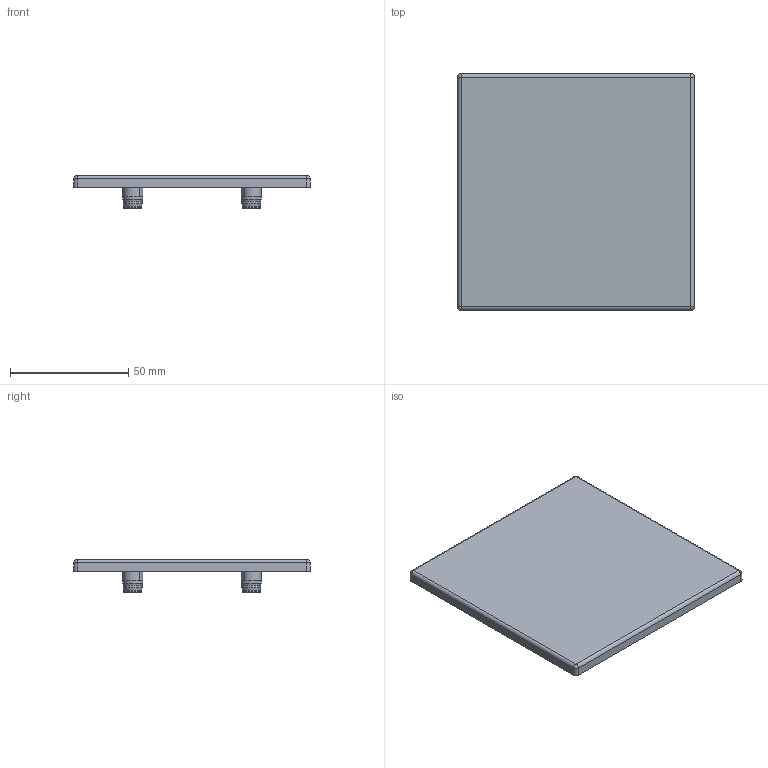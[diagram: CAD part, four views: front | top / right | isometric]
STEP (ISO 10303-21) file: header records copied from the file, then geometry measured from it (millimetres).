
FILE_DESCRIPTION(/* description */ (''),/* implementation_level */ '2;1');
FILE_NAME(/* name */ 'C:\Users\AMS43\Documents\Inventor\AMS\misumi\\X2\30A830F330C930AD30E330C330D7\X0\\ECP-100100-10.ipt.stp',/* time_stamp */ '2016-10-03T14:51:04+09:00',/* author */ ('AMS43'),/* organization */ (''),/* preprocessor_version */ 'ST-DEVELOPER v15.2',/* originating_system */ 'Autodesk Inventor 2014',/* authorisation */ '');
FILE_SCHEMA (('AUTOMOTIVE_DESIGN { 1 0 10303 214 3 1 1 }'));
Length unit declared in the file: metre
Products named in the file (1): ECP-100100-10
Bounding box: 100 x 100 x 14 mm (x, y, z)
Volume: 24560.4 mm3; surface area: 24677.9 mm2
Topology: 1 solids, 1 shells, 100 faces, 224 edges, 132 vertices
Faces by surface type: plane 28, cylinder 28, cone 16, bspline 12, torus 12, sphere 4
Full cylindrical faces by diameter (mm): 7.5 x4, 8 x4
Entity records: 3986 total; most frequent: CARTESIAN_POINT 1961, DIRECTION 418, ORIENTED_EDGE 366, EDGE_CURVE 183, AXIS2_PLACEMENT_3D 173, EDGE_LOOP 138, VERTEX_POINT 123, FACE_OUTER_BOUND 100
